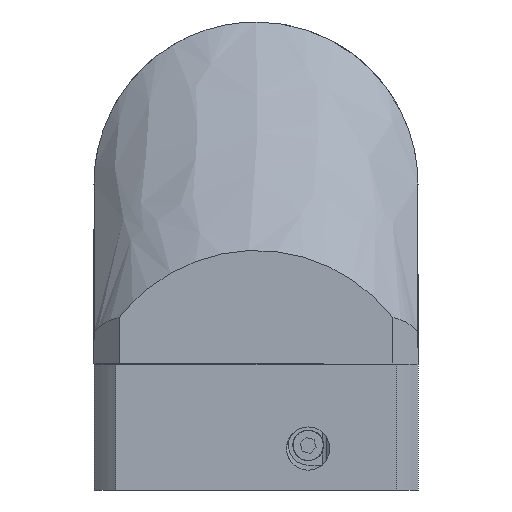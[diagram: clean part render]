
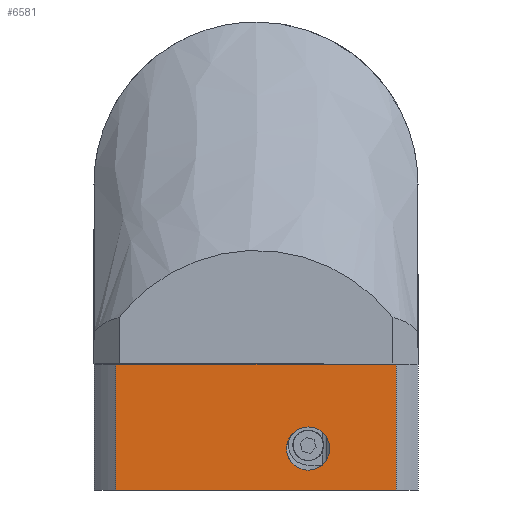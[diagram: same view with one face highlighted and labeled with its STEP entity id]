
A CAD part, front view. The second image highlights one B-rep face of the part: STEP entity #6581.
In plain terms, the highlighted planar face has unit normal (0, -1, 0) as drawn and (0, 0, 1) by its records, which use the part's own axes.
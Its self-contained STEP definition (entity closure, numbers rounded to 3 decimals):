
#1310 = AXIS2_PLACEMENT_3D ( 'NONE', #19160, #21609, #4352 ) ;
#2822 = EDGE_LOOP ( 'NONE', ( #23347, #22971, #30036, #21337 ) ) ;
#3082 = VERTEX_POINT ( 'NONE', #8146 ) ;
#3175 = CARTESIAN_POINT ( 'NONE',  ( 35., 59.5, 45. ) ) ;
#4189 = ORIENTED_EDGE ( 'NONE', *, *, #21813, .T. ) ;
#4197 = CIRCLE ( 'NONE', #10683, 6. ) ;
#4352 = DIRECTION ( 'NONE',  ( 1., 0., 0. ) ) ;
#4421 = EDGE_CURVE ( 'NONE', #30063, #9449, #29154, .T. ) ;
#4771 = DIRECTION ( 'NONE',  ( 0., 0., -1. ) ) ;
#5053 = VECTOR ( 'NONE', #20541, 1000. ) ;
#6001 = EDGE_CURVE ( 'NONE', #24382, #14327, #13200, .T. ) ;
#6581 = ADVANCED_FACE ( 'NONE', ( #26276, #13513 ), #26366, .T. ) ;
#6841 = CARTESIAN_POINT ( 'NONE',  ( 59., -38.926, 45. ) ) ;
#7751 = ORIENTED_EDGE ( 'NONE', *, *, #6001, .T. ) ;
#7888 = CARTESIAN_POINT ( 'NONE',  ( 11.5, -14.5, 45. ) ) ;
#8146 = CARTESIAN_POINT ( 'NONE',  ( 0., -38.926, 45. ) ) ;
#8465 = CARTESIAN_POINT ( 'NONE',  ( 59., 38.926, 45. ) ) ;
#9449 = VERTEX_POINT ( 'NONE', #27603 ) ;
#10114 = VECTOR ( 'NONE', #13568, 1000. ) ;
#10148 = CARTESIAN_POINT ( 'NONE',  ( 11.5, -14.5, 45. ) ) ;
#10683 = AXIS2_PLACEMENT_3D ( 'NONE', #7888, #4771, #24535 ) ;
#11211 = VERTEX_POINT ( 'NONE', #21599 ) ;
#12161 = EDGE_CURVE ( 'NONE', #3082, #11211, #17652, .T. ) ;
#12286 = DIRECTION ( 'NONE',  ( 1., 0., 0. ) ) ;
#12567 = CARTESIAN_POINT ( 'NONE',  ( 5.5, -14.5, 45. ) ) ;
#13081 = AXIS2_PLACEMENT_3D ( 'NONE', #10148, #27090, #12286 ) ;
#13200 = CIRCLE ( 'NONE', #13081, 6. ) ;
#13345 = CARTESIAN_POINT ( 'NONE',  ( 0., -45., 45. ) ) ;
#13513 = FACE_BOUND ( 'NONE', #25157, .T. ) ;
#13568 = DIRECTION ( 'NONE',  ( 0., -1., 0. ) ) ;
#14016 = EDGE_CURVE ( 'NONE', #9449, #3082, #17866, .T. ) ;
#14327 = VERTEX_POINT ( 'NONE', #12567 ) ;
#16490 = DIRECTION ( 'NONE',  ( 1., 0., 0. ) ) ;
#17652 = LINE ( 'NONE', #6841, #18825 ) ;
#17866 = LINE ( 'NONE', #13345, #10114 ) ;
#18540 = DIRECTION ( 'NONE',  ( -1., 0., 0. ) ) ;
#18799 = CARTESIAN_POINT ( 'NONE',  ( 17.5, -14.5, 45. ) ) ;
#18825 = VECTOR ( 'NONE', #16490, 1000. ) ;
#19102 = CARTESIAN_POINT ( 'NONE',  ( 35., 38.926, 45. ) ) ;
#19160 = CARTESIAN_POINT ( 'NONE',  ( 59., -45., 45. ) ) ;
#20541 = DIRECTION ( 'NONE',  ( 0., 1., 0. ) ) ;
#21098 = EDGE_CURVE ( 'NONE', #11211, #30063, #27894, .T. ) ;
#21337 = ORIENTED_EDGE ( 'NONE', *, *, #14016, .T. ) ;
#21599 = CARTESIAN_POINT ( 'NONE',  ( 35., -38.926, 45. ) ) ;
#21609 = DIRECTION ( 'NONE',  ( 0., 0., 1. ) ) ;
#21813 = EDGE_CURVE ( 'NONE', #14327, #24382, #4197, .T. ) ;
#22971 = ORIENTED_EDGE ( 'NONE', *, *, #21098, .T. ) ;
#23347 = ORIENTED_EDGE ( 'NONE', *, *, #12161, .T. ) ;
#24382 = VERTEX_POINT ( 'NONE', #18799 ) ;
#24535 = DIRECTION ( 'NONE',  ( 1., 0., 0. ) ) ;
#25157 = EDGE_LOOP ( 'NONE', ( #7751, #4189 ) ) ;
#26276 = FACE_OUTER_BOUND ( 'NONE', #2822, .T. ) ;
#26366 = PLANE ( 'NONE',  #1310 ) ;
#27090 = DIRECTION ( 'NONE',  ( 0., 0., -1. ) ) ;
#27603 = CARTESIAN_POINT ( 'NONE',  ( 0., 38.926, 45. ) ) ;
#27894 = LINE ( 'NONE', #3175, #5053 ) ;
#28762 = VECTOR ( 'NONE', #18540, 1000. ) ;
#29154 = LINE ( 'NONE', #8465, #28762 ) ;
#30036 = ORIENTED_EDGE ( 'NONE', *, *, #4421, .T. ) ;
#30063 = VERTEX_POINT ( 'NONE', #19102 ) ;
